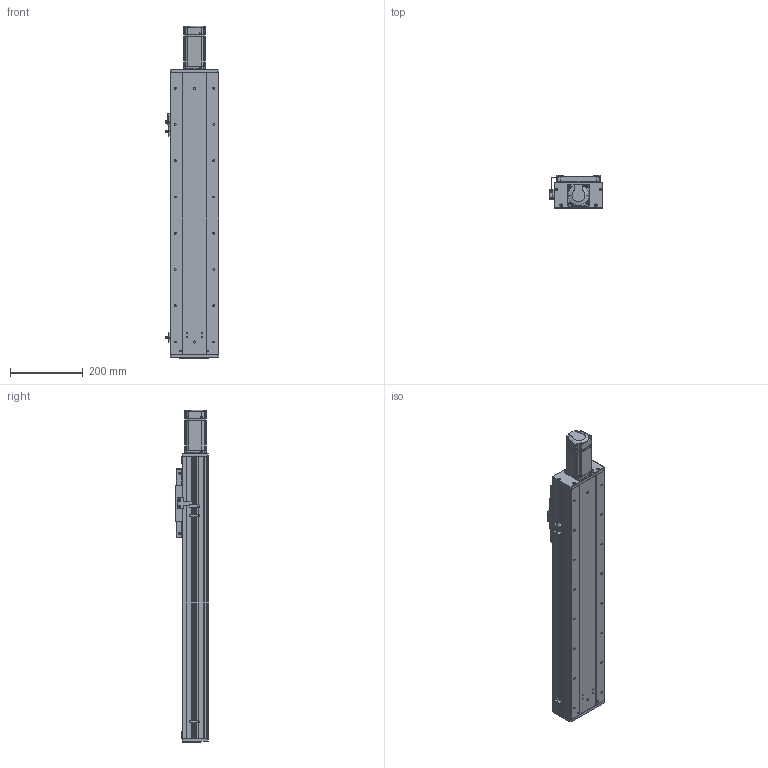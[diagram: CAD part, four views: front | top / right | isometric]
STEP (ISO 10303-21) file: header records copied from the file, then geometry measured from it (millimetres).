
FILE_DESCRIPTION (( 'STEP AP203' ), '1' );
FILE_NAME ('RY140F-L2020-300-MK.SLDASM_500.step', '2021-03-02T06:23:55', ( '盈信电脑' ), ( '东莞市道滘镇水果街19号' ), 'SwSTEP 2.0', 'SolidWorks 2012', '' );
FILE_SCHEMA (( 'CONFIG_CONTROL_DESIGN' ));
Length unit declared in the file: millimetre
Products named in the file (18): RY140F-L2020-300-MK.SLDASM_500; 侐源滅袉蝶; RY140F-詩湍揤え; RY140F-672覜茼んえ; 滅袉蝶18-10; 覜茼ん672; 侂狟400W侜督萇儂; 15; RY140F-后盖板(铝件）; RY140F-直连前盖板(铝件）; RY140F-直连型材铝滑块(16丝杆); RY140F-詩湍幗謫粣; RY100F-詩湍揤踡謫; RY140F-直连型材铝滑块连接座; RY140F-滅鳥奻裔; RY140F-300-MK眻蟀倰第奻裔啣_500; RY140F-300-MK眻蟀詩湍_500; RY140F-300-MK眻蟀倰第菁釱_500
Assembly tree (22 placements, depth 3):
  RY140F-L2020-300-MK.SLDASM_500
    RY140F-300-MK眻蟀倰第菁釱_500
    RY140F-300-MK眻蟀倰第奻裔啣_500  x2
    RY140F-300-MK眻蟀詩湍_500
    RY140F-直连型材铝滑块连接座
    RY140F-滅鳥奻裔
    RY140F-詩湍幗謫粣
    RY100F-詩湍揤踡謫
    RY140F-直连型材铝滑块(16丝杆)
    RY140F-直连前盖板(铝件）
    RY140F-后盖板(铝件）
    侂狟400W侜督萇儂
      15
    覜茼ん672  x3
    RY140F-672覜茼んえ
    RY140F-詩湍揤え  x2
    滅袉蝶18-10
    侐源滅袉蝶  x2
Bounding box: 148.7 x 91 x 915.5 mm (x, y, z)
Volume: 3275193.6 mm3; surface area: 1114410.9 mm2
Topology: 21 solids, 21 shells, 1920 faces, 5289 edges, 3400 vertices
Faces by surface type: cylinder 870, plane 854, cone 174, bspline 18, torus 4
Entity records: 55702 total; most frequent: CARTESIAN_POINT 11213, DIRECTION 9056, ORIENTED_EDGE 8734, EDGE_CURVE 4367, AXIS2_PLACEMENT_3D 3231, VERTEX_POINT 2868, VECTOR 2594, LINE 2594
